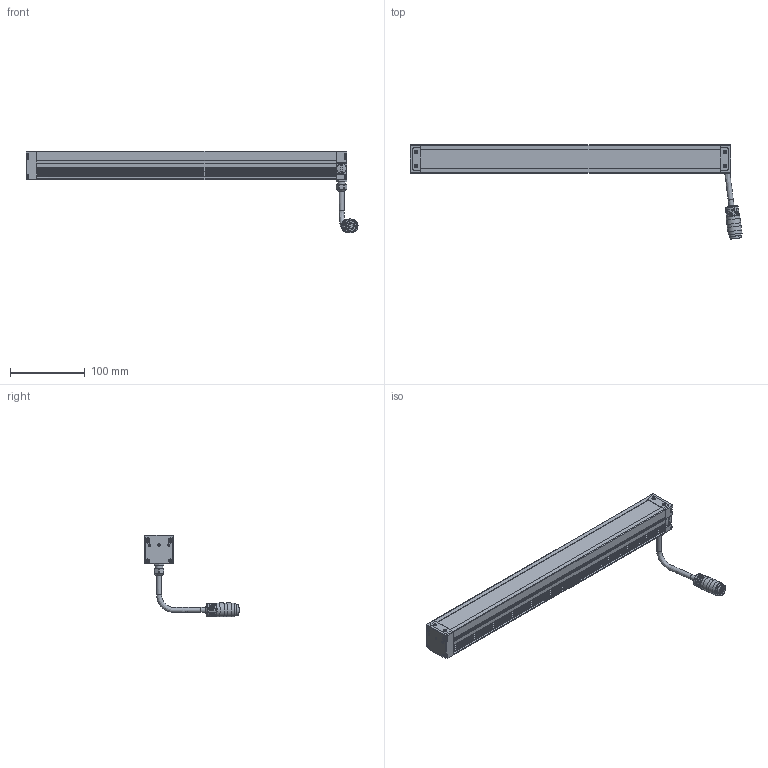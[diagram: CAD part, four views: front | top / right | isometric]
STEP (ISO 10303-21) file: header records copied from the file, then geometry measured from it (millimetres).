
FILE_DESCRIPTION(/* description */ (''),/* implementation_level */ '2;1');
FILE_NAME(/* name */ 'LBHP400',/* time_stamp */ '2025-01-14T08:05:40+01:00',/* author */ (''),/* organization */ ('iiM AG'),/* preprocessor_version */ 'ST-DEVELOPER v16.7',/* originating_system */ 'DEX',/* authorisation */ $);
FILE_SCHEMA (('AUTOMOTIVE_DESIGN {1 0 10303 214 3 1 1}'));
Length unit declared in the file: millimetre
Products named in the file (1): step export
Bounding box: 444.79 x 126.2 x 109.58 mm (x, y, z)
Volume: 561864.4 mm3; surface area: 128146.4 mm2
Topology: 2 solids, 2 shells, 882 faces, 2334 edges, 1476 vertices
Faces by surface type: cylinder 368, plane 336, cone 138, sphere 21, torus 16, bspline 3
Full cylindrical faces by diameter (mm): 1.001 x12, 2.693 x4, 3 x2, 3.1 x4, 3.242 x6, 3.8 x8, 5.6 x8, 6 x8, 6.8 x2, 8.008 x1, 10 x1, 11 x1, 12.9 x2, 14 x1, 15.015 x1, 16.016 x1, 17.518 x1, 18.519 x3, 18.619 x2
Entity records: 32582 total; most frequent: CARTESIAN_POINT 6224, ORIENTED_EDGE 4118, DIRECTION 4048, EDGE_CURVE 2059, AXIS2_PLACEMENT_3D 1523, VERTEX_POINT 1383, FACE_BOUND 1100, EDGE_LOOP 1086
